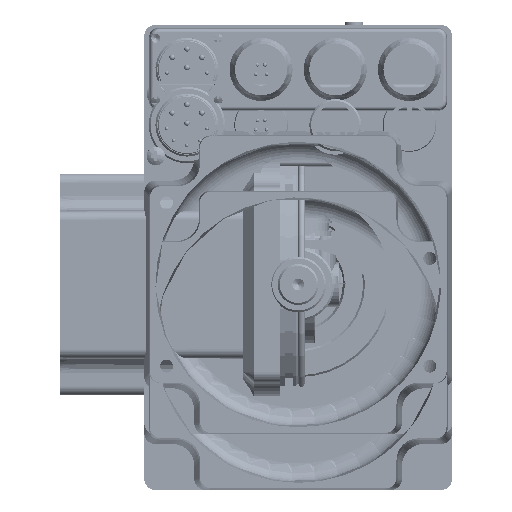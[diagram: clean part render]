
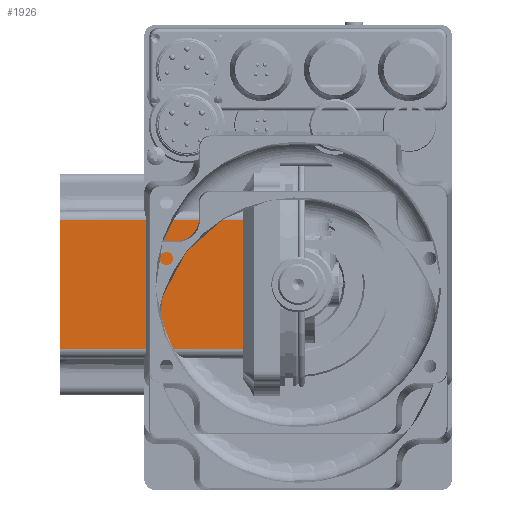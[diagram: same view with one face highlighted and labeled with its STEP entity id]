
A CAD part, front view. The second image highlights one B-rep face of the part: STEP entity #1926.
In plain terms, the highlighted planar face has unit normal (-0.003, -1, 0).
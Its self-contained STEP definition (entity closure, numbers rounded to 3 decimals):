
#1926 = ADVANCED_FACE( '', ( #5520 ), #5521, .T. );
#5520 = FACE_OUTER_BOUND( '', #11284, .T. );
#5521 = PLANE( '', #11285 );
#11284 = EDGE_LOOP( '', ( #29111, #29112, #29113, #29114 ) );
#11285 = AXIS2_PLACEMENT_3D( '', #29115, #29116, #29117 );
#29111 = ORIENTED_EDGE( '', *, *, #41266, .T. );
#29112 = ORIENTED_EDGE( '', *, *, #41267, .T. );
#29113 = ORIENTED_EDGE( '', *, *, #41268, .T. );
#29114 = ORIENTED_EDGE( '', *, *, #41269, .T. );
#29115 = CARTESIAN_POINT( '', ( -6., -30., 0. ) );
#29116 = DIRECTION( '', ( -0.003, -1., 0. ) );
#29117 = DIRECTION( '', ( 1., -0.003, 0. ) );
#41266 = EDGE_CURVE( '', #47963, #47964, #47965, .T. );
#41267 = EDGE_CURVE( '', #47964, #47966, #47967, .T. );
#41268 = EDGE_CURVE( '', #47966, #47968, #47969, .T. );
#41269 = EDGE_CURVE( '', #47968, #47963, #47970, .T. );
#47963 = VERTEX_POINT( '', #66674 );
#47964 = VERTEX_POINT( '', #66675 );
#47965 = LINE( '', #66676, #66677 );
#47966 = VERTEX_POINT( '', #66678 );
#47967 = LINE( '', #66679, #66680 );
#47968 = VERTEX_POINT( '', #66681 );
#47969 = LINE( '', #66682, #66683 );
#47970 = LINE( '', #66684, #66685 );
#66674 = CARTESIAN_POINT( '', ( -64.25, -29.831, -17.331 ) );
#66675 = CARTESIAN_POINT( '', ( -6.75, -29.998, -17.498 ) );
#66676 = CARTESIAN_POINT( '', ( -5.993, -30., -17.5 ) );
#66677 = VECTOR( '', #78361, 1000. );
#66678 = CARTESIAN_POINT( '', ( -6.75, -29.998, 17.498 ) );
#66679 = CARTESIAN_POINT( '', ( -6.75, -29.998, 0. ) );
#66680 = VECTOR( '', #78362, 1000. );
#66681 = CARTESIAN_POINT( '', ( -64.25, -29.831, 17.331 ) );
#66682 = CARTESIAN_POINT( '', ( -89.993, -29.756, 17.256 ) );
#66683 = VECTOR( '', #78363, 1000. );
#66684 = CARTESIAN_POINT( '', ( -64.25, -29.831, 0. ) );
#66685 = VECTOR( '', #78364, 1000. );
#78361 = DIRECTION( '', ( 1., -0.003, -0.003 ) );
#78362 = DIRECTION( '', ( 0., 0., 1. ) );
#78363 = DIRECTION( '', ( -1., 0.003, -0.003 ) );
#78364 = DIRECTION( '', ( 0., 0., -1. ) );
